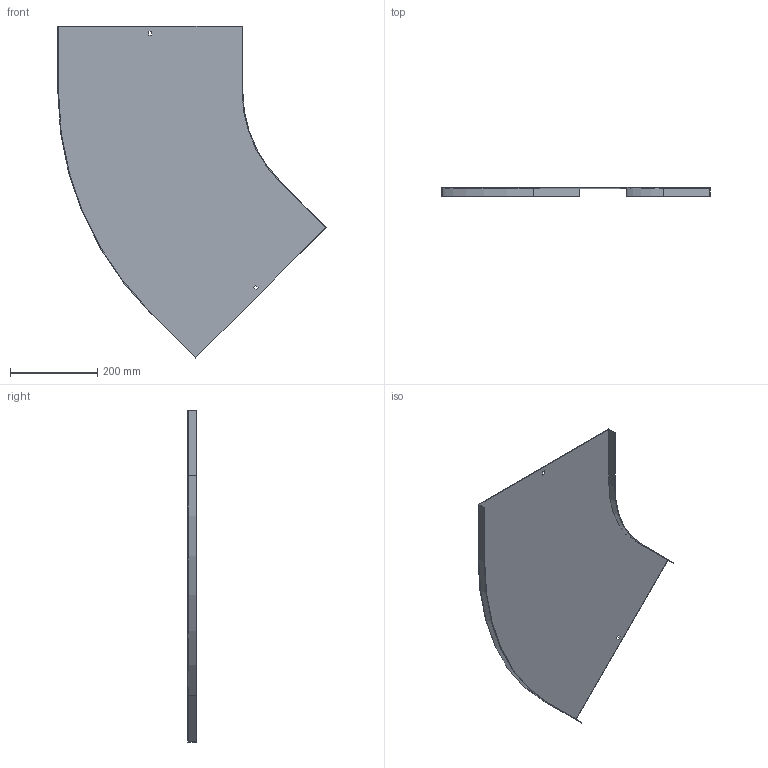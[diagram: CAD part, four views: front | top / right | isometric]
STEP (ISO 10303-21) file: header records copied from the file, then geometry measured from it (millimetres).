
FILE_DESCRIPTION (( 'STEP AP214' ), '1' );
FILE_NAME ('11N3P400.step', '2025-02-21T13:35:00', ( '' ), ( '' ), 'SwSTEP 2.0', 'SolidWorks 2023', '' );
FILE_SCHEMA (( 'AUTOMOTIVE_DESIGN' ));
Length unit declared in the file: millimetre
Products named in the file (1): 11N3P400
Bounding box: 613.57 x 20 x 759.17 mm (x, y, z)
Volume: 477786.9 mm3; surface area: 640600.3 mm2
Topology: 1 solids, 1 shells, 26 faces, 72 edges, 48 vertices
Faces by surface type: plane 22, cylinder 4
Entity records: 855 total; most frequent: CARTESIAN_POINT 147, ORIENTED_EDGE 144, DIRECTION 134, EDGE_CURVE 72, LINE 64, VECTOR 64, VERTEX_POINT 48, AXIS2_PLACEMENT_3D 35
